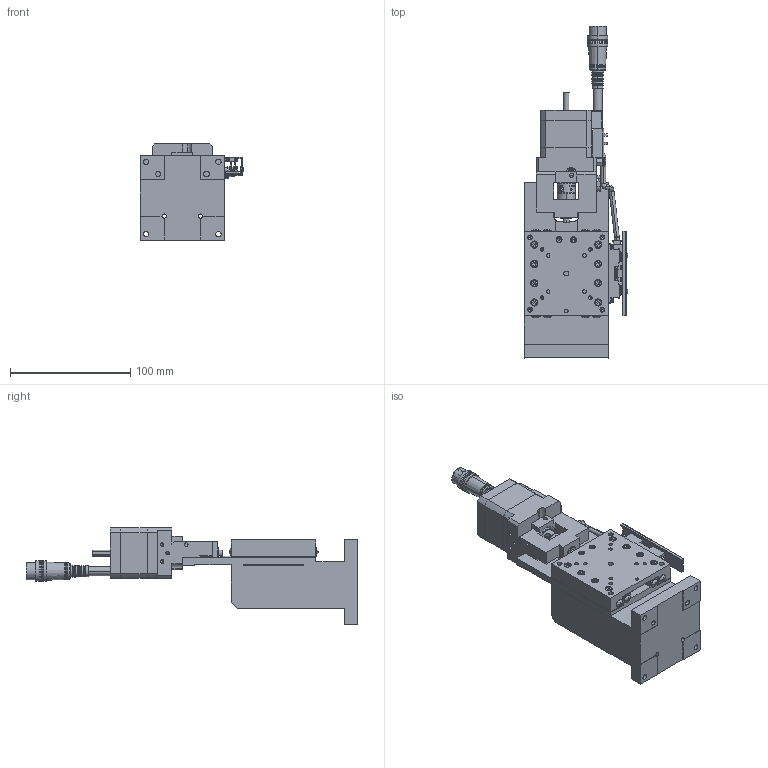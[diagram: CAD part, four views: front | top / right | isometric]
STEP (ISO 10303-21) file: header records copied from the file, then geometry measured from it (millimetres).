
FILE_DESCRIPTION (( 'STEP AP203' ), '1' );
FILE_NAME ('ZA07F-X103-R.STEP', '2019-02-25T07:18:40', ( '' ), ( '' ), 'SwSTEP 2.0', 'SolidWorks 2018', '' );
FILE_SCHEMA (( 'CONFIG_CONTROL_DESIGN' ));
Length unit declared in the file: millimetre
Products named in the file (6): table; base-Part-1; ZA07F-X103-R; base; base-Part-3; base-Part-2
Assembly tree (5 placements, depth 3):
  ZA07F-X103-R
    base
      base-Part-1
      base-Part-2
      base-Part-3
    table
Bounding box: 86.18 x 275.5 x 80 mm (x, y, z)
Volume: 429553.2 mm3; surface area: 114866.9 mm2
Topology: 4 solids, 7 shells, 2180 faces, 5434 edges, 3332 vertices
Faces by surface type: plane 1256, cylinder 539, cone 297, torus 54, sphere 34
Entity records: 65478 total; most frequent: CARTESIAN_POINT 11990, DIRECTION 11534, ORIENTED_EDGE 10672, EDGE_CURVE 5336, AXIS2_PLACEMENT_3D 4150, VERTEX_POINT 3326, VECTOR 3234, LINE 3234
